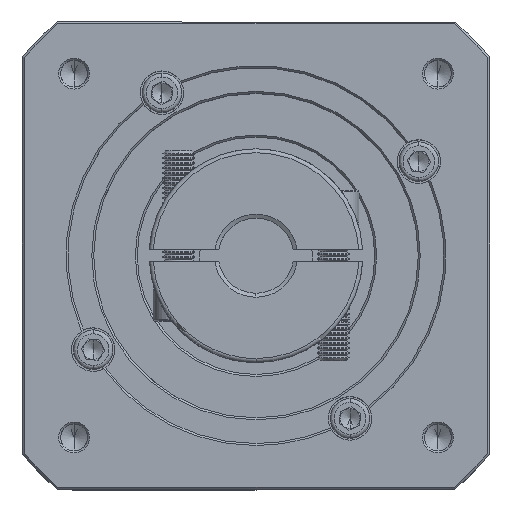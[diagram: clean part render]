
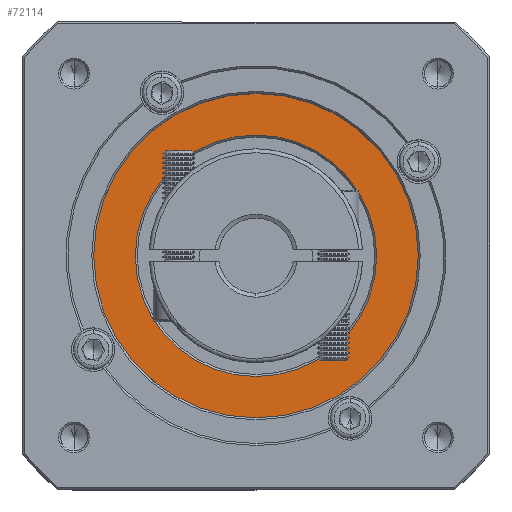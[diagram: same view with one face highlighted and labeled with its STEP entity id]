
A CAD part, top view. The second image highlights one B-rep face of the part: STEP entity #72114.
In plain terms, the highlighted planar face has unit normal (0, 0, 1).
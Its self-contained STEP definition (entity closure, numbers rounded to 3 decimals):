
#2527 = CARTESIAN_POINT ( 'NONE',  ( 54.206, 51.461, -19.981 ) ) ;
#3189 = CIRCLE ( 'NONE', #69449, 30.5 ) ;
#5565 = CARTESIAN_POINT ( 'NONE',  ( 54.206, 51.461, -19.981 ) ) ;
#7536 = EDGE_LOOP ( 'NONE', ( #50965, #88342 ) ) ;
#8599 = AXIS2_PLACEMENT_3D ( 'NONE', #53409, #104389, #95836 ) ;
#18622 = DIRECTION ( 'NONE',  ( 0., 0., 1. ) ) ;
#19472 = AXIS2_PLACEMENT_3D ( 'NONE', #66528, #18622, #86076 ) ;
#20711 = EDGE_CURVE ( 'NONE', #113548, #29700, #3189, .T. ) ;
#20914 = ORIENTED_EDGE ( 'NONE', *, *, #56568, .T. ) ;
#27859 = CARTESIAN_POINT ( 'NONE',  ( 54.206, 92.461, -19.981 ) ) ;
#29700 = VERTEX_POINT ( 'NONE', #131812 ) ;
#32978 = DIRECTION ( 'NONE',  ( 0., 0., -1. ) ) ;
#33659 = CARTESIAN_POINT ( 'NONE',  ( 23.706, 51.461, -19.981 ) ) ;
#35031 = EDGE_LOOP ( 'NONE', ( #20914, #86795 ) ) ;
#41399 = VERTEX_POINT ( 'NONE', #27859 ) ;
#42887 = CARTESIAN_POINT ( 'NONE',  ( 54.206, 51.461, -19.981 ) ) ;
#43512 = AXIS2_PLACEMENT_3D ( 'NONE', #2527, #32978, #83947 ) ;
#48944 = CARTESIAN_POINT ( 'NONE',  ( 54.206, 10.461, -19.981 ) ) ;
#50965 = ORIENTED_EDGE ( 'NONE', *, *, #20711, .T. ) ;
#53211 = DIRECTION ( 'NONE',  ( 0., -1., 0. ) ) ;
#53409 = CARTESIAN_POINT ( 'NONE',  ( 54.206, 51.461, -19.981 ) ) ;
#54968 = FACE_BOUND ( 'NONE', #7536, .T. ) ;
#56568 = EDGE_CURVE ( 'NONE', #73599, #41399, #128798, .T. ) ;
#66528 = CARTESIAN_POINT ( 'NONE',  ( 54.206, 51.461, -19.981 ) ) ;
#69449 = AXIS2_PLACEMENT_3D ( 'NONE', #5565, #97275, #77133 ) ;
#72114 = ADVANCED_FACE ( 'NONE', ( #82167, #54968 ), #76854, .T. ) ;
#73599 = VERTEX_POINT ( 'NONE', #48944 ) ;
#76411 = CIRCLE ( 'NONE', #127707, 41. ) ;
#76854 = PLANE ( 'NONE',  #19472 ) ;
#77133 = DIRECTION ( 'NONE',  ( -1., 0., 0. ) ) ;
#82167 = FACE_OUTER_BOUND ( 'NONE', #35031, .T. ) ;
#83947 = DIRECTION ( 'NONE',  ( -1., 0., 0. ) ) ;
#86076 = DIRECTION ( 'NONE',  ( 0., -1., 0. ) ) ;
#86795 = ORIENTED_EDGE ( 'NONE', *, *, #101623, .T. ) ;
#88342 = ORIENTED_EDGE ( 'NONE', *, *, #124278, .T. ) ;
#95836 = DIRECTION ( 'NONE',  ( 0., -1., 0. ) ) ;
#97275 = DIRECTION ( 'NONE',  ( 0., 0., -1. ) ) ;
#101623 = EDGE_CURVE ( 'NONE', #41399, #73599, #76411, .T. ) ;
#104389 = DIRECTION ( 'NONE',  ( 0., 0., 1. ) ) ;
#105848 = CIRCLE ( 'NONE', #43512, 30.5 ) ;
#113548 = VERTEX_POINT ( 'NONE', #33659 ) ;
#114560 = DIRECTION ( 'NONE',  ( 0., 0., 1. ) ) ;
#124278 = EDGE_CURVE ( 'NONE', #29700, #113548, #105848, .T. ) ;
#127707 = AXIS2_PLACEMENT_3D ( 'NONE', #42887, #114560, #53211 ) ;
#128798 = CIRCLE ( 'NONE', #8599, 41. ) ;
#131812 = CARTESIAN_POINT ( 'NONE',  ( 84.706, 51.461, -19.981 ) ) ;
